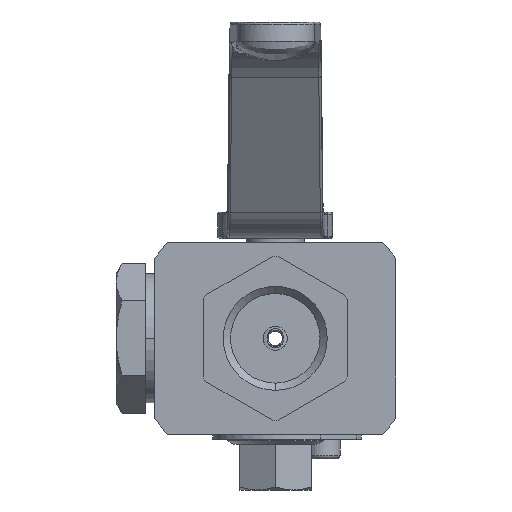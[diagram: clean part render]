
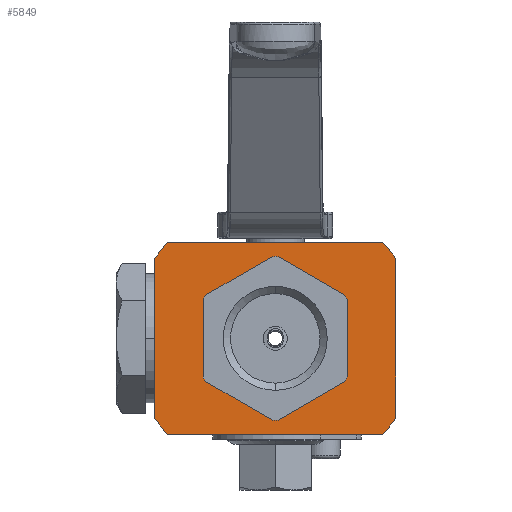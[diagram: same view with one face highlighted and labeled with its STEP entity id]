
A CAD part, left-side view. The second image highlights one B-rep face of the part: STEP entity #5849.
In plain terms, the highlighted planar face has unit normal (-1, 0, 0).
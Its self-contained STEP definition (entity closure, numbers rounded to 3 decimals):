
#1047=DIRECTION('',(0.,0.,-1.));
#1048=VECTOR('',#1047,33.166);
#1049=CARTESIAN_POINT('',(-21.,-25.,16.583));
#1050=LINE('',#1049,#1048);
#1063=CARTESIAN_POINT('',(-21.,0.,0.));
#1064=DIRECTION('',(1.,0.,0.));
#1065=DIRECTION('',(0.,-0.849,0.529));
#1066=AXIS2_PLACEMENT_3D('',#1063,#1064,#1065);
#1068=DIRECTION('',(0.,-0.866,-0.5));
#1069=VECTOR('',#1068,16.);
#1070=CARTESIAN_POINT('',(-21.,-0.572,16.99));
#1071=LINE('',#1070,#1069);
#1072=DIRECTION('',(0.,-0.866,0.5));
#1073=VECTOR('',#1072,16.);
#1074=CARTESIAN_POINT('',(-21.,14.428,8.99));
#1075=LINE('',#1074,#1073);
#1076=CARTESIAN_POINT('',(-21.,0.,0.));
#1077=DIRECTION('',(-1.,0.,0.));
#1078=DIRECTION('',(0.,0.849,0.529));
#1079=AXIS2_PLACEMENT_3D('',#1076,#1077,#1078);
#1081=DIRECTION('',(0.,0.,1.));
#1082=VECTOR('',#1081,16.);
#1083=CARTESIAN_POINT('',(-21.,15.,-8.));
#1084=LINE('',#1083,#1082);
#1085=CARTESIAN_POINT('',(-21.,0.,0.));
#1086=DIRECTION('',(-1.,0.,0.));
#1087=DIRECTION('',(0.,0.882,-0.471));
#1088=AXIS2_PLACEMENT_3D('',#1085,#1086,#1087);
#1090=DIRECTION('',(0.,0.866,0.5));
#1091=VECTOR('',#1090,16.);
#1092=CARTESIAN_POINT('',(-21.,0.572,-16.99));
#1093=LINE('',#1092,#1091);
#1094=DIRECTION('',(0.,0.866,-0.5));
#1095=VECTOR('',#1094,16.);
#1096=CARTESIAN_POINT('',(-21.,-14.428,-8.99));
#1097=LINE('',#1096,#1095);
#1098=CARTESIAN_POINT('',(-21.,0.,0.));
#1099=DIRECTION('',(1.,0.,0.));
#1100=DIRECTION('',(0.,-0.882,-0.471));
#1101=AXIS2_PLACEMENT_3D('',#1098,#1099,#1100);
#1103=DIRECTION('',(0.,0.,-1.));
#1104=VECTOR('',#1103,16.);
#1105=CARTESIAN_POINT('',(-21.,-15.,8.));
#1106=LINE('',#1105,#1104);
#1107=DIRECTION('',(0.,1.,0.));
#1108=VECTOR('',#1107,44.721);
#1109=CARTESIAN_POINT('',(-21.,-22.361,-20.));
#1110=LINE('',#1109,#1108);
#1151=CARTESIAN_POINT('',(-21.,0.,0.));
#1152=DIRECTION('',(1.,0.,0.));
#1153=DIRECTION('',(0.,-0.833,-0.553));
#1154=AXIS2_PLACEMENT_3D('',#1151,#1152,#1153);
#1161=CARTESIAN_POINT('',(-21.,0.,0.));
#1162=DIRECTION('',(1.,0.,0.));
#1163=DIRECTION('',(0.,0.745,-0.667));
#1164=AXIS2_PLACEMENT_3D('',#1161,#1162,#1163);
#1171=DIRECTION('',(0.,0.,1.));
#1172=VECTOR('',#1171,33.166);
#1173=CARTESIAN_POINT('',(-21.,25.,-16.583));
#1174=LINE('',#1173,#1172);
#1197=CARTESIAN_POINT('',(-21.,0.,0.));
#1198=DIRECTION('',(1.,0.,0.));
#1199=DIRECTION('',(0.,0.833,0.553));
#1200=AXIS2_PLACEMENT_3D('',#1197,#1198,#1199);
#1207=DIRECTION('',(0.,-1.,0.));
#1208=VECTOR('',#1207,44.721);
#1209=CARTESIAN_POINT('',(-21.,22.361,20.));
#1210=LINE('',#1209,#1208);
#1253=CARTESIAN_POINT('',(-21.,0.,0.));
#1254=DIRECTION('',(1.,0.,0.));
#1255=DIRECTION('',(0.,-0.745,0.667));
#1256=AXIS2_PLACEMENT_3D('',#1253,#1254,#1255);
#3305=CARTESIAN_POINT('',(-21.,0.,0.));
#3306=DIRECTION('',(1.,0.,0.));
#3307=DIRECTION('',(0.,-0.034,-0.999));
#3308=AXIS2_PLACEMENT_3D('',#3305,#3306,#3307);
#3348=CARTESIAN_POINT('',(-21.,0.,0.));
#3349=DIRECTION('',(1.,0.,0.));
#3350=DIRECTION('',(0.,0.034,0.999));
#3351=AXIS2_PLACEMENT_3D('',#3348,#3349,#3350);
#4753=CARTESIAN_POINT('',(-21.,-22.361,-20.));
#4754=CARTESIAN_POINT('',(-21.,22.361,-20.));
#4755=VERTEX_POINT('',#4753);
#4756=VERTEX_POINT('',#4754);
#4757=CARTESIAN_POINT('',(-21.,22.361,20.));
#4758=CARTESIAN_POINT('',(-21.,-22.361,20.));
#4759=VERTEX_POINT('',#4757);
#4760=VERTEX_POINT('',#4758);
#4761=CARTESIAN_POINT('',(-21.,-14.428,-8.99));
#4763=VERTEX_POINT('',#4761);
#4765=CARTESIAN_POINT('',(-21.,-0.572,-16.99));
#4767=VERTEX_POINT('',#4765);
#4769=CARTESIAN_POINT('',(-21.,-15.,8.));
#4771=VERTEX_POINT('',#4769);
#4773=CARTESIAN_POINT('',(-21.,-15.,-8.));
#4775=VERTEX_POINT('',#4773);
#4777=CARTESIAN_POINT('',(-21.,-0.572,16.99));
#4779=VERTEX_POINT('',#4777);
#4781=CARTESIAN_POINT('',(-21.,-14.428,8.99));
#4783=VERTEX_POINT('',#4781);
#4785=CARTESIAN_POINT('',(-21.,14.428,8.99));
#4787=VERTEX_POINT('',#4785);
#4789=CARTESIAN_POINT('',(-21.,0.572,16.99));
#4791=VERTEX_POINT('',#4789);
#4793=CARTESIAN_POINT('',(-21.,15.,-8.));
#4795=VERTEX_POINT('',#4793);
#4797=CARTESIAN_POINT('',(-21.,15.,8.));
#4799=VERTEX_POINT('',#4797);
#4801=CARTESIAN_POINT('',(-21.,0.572,-16.99));
#4803=VERTEX_POINT('',#4801);
#4805=CARTESIAN_POINT('',(-21.,14.428,-8.99));
#4807=VERTEX_POINT('',#4805);
#4809=CARTESIAN_POINT('',(-21.,-25.,16.583));
#4810=CARTESIAN_POINT('',(-21.,-25.,-16.583));
#4811=VERTEX_POINT('',#4809);
#4812=VERTEX_POINT('',#4810);
#4813=CARTESIAN_POINT('',(-21.,25.,-16.583));
#4814=CARTESIAN_POINT('',(-21.,25.,16.583));
#4815=VERTEX_POINT('',#4813);
#4816=VERTEX_POINT('',#4814);
#5801=CARTESIAN_POINT('',(-21.,0.,0.));
#5802=DIRECTION('',(1.,0.,0.));
#5803=DIRECTION('',(0.,0.,-1.));
#5804=AXIS2_PLACEMENT_3D('',#5801,#5802,#5803);
#5805=PLANE('',#5804);
#5807=ORIENTED_EDGE('',*,*,#5806,.T.);
#5809=ORIENTED_EDGE('',*,*,#5808,.T.);
#5811=ORIENTED_EDGE('',*,*,#5810,.T.);
#5813=ORIENTED_EDGE('',*,*,#5812,.T.);
#5815=ORIENTED_EDGE('',*,*,#5814,.T.);
#5817=ORIENTED_EDGE('',*,*,#5816,.T.);
#5818=ORIENTED_EDGE('',*,*,#5791,.T.);
#5820=ORIENTED_EDGE('',*,*,#5819,.T.);
#5821=EDGE_LOOP('',(#5807,#5809,#5811,#5813,#5815,#5817,#5818,#5820));
#5822=FACE_OUTER_BOUND('',#5821,.F.);
#5824=ORIENTED_EDGE('',*,*,#5823,.F.);
#5826=ORIENTED_EDGE('',*,*,#5825,.F.);
#5828=ORIENTED_EDGE('',*,*,#5827,.F.);
#5830=ORIENTED_EDGE('',*,*,#5829,.F.);
#5832=ORIENTED_EDGE('',*,*,#5831,.T.);
#5834=ORIENTED_EDGE('',*,*,#5833,.F.);
#5836=ORIENTED_EDGE('',*,*,#5835,.T.);
#5838=ORIENTED_EDGE('',*,*,#5837,.F.);
#5840=ORIENTED_EDGE('',*,*,#5839,.F.);
#5842=ORIENTED_EDGE('',*,*,#5841,.F.);
#5844=ORIENTED_EDGE('',*,*,#5843,.F.);
#5846=ORIENTED_EDGE('',*,*,#5845,.F.);
#5847=EDGE_LOOP('',(#5824,#5826,#5828,#5830,#5832,#5834,#5836,#5838,#5840,#5842,
#5844,#5846));
#5848=FACE_BOUND('',#5847,.F.);
#1067=CIRCLE('',#1066,17.);
#1080=CIRCLE('',#1079,17.);
#1089=CIRCLE('',#1088,17.);
#1102=CIRCLE('',#1101,17.);
#1155=CIRCLE('',#1154,30.);
#1165=CIRCLE('',#1164,30.);
#1201=CIRCLE('',#1200,30.);
#1257=CIRCLE('',#1256,30.);
#3309=CIRCLE('',#3308,17.);
#3352=CIRCLE('',#3351,17.);
#5791=EDGE_CURVE('',#4811,#4812,#1050,.T.);
#5806=EDGE_CURVE('',#4755,#4756,#1110,.T.);
#5808=EDGE_CURVE('',#4756,#4815,#1165,.T.);
#5810=EDGE_CURVE('',#4815,#4816,#1174,.T.);
#5812=EDGE_CURVE('',#4816,#4759,#1201,.T.);
#5814=EDGE_CURVE('',#4759,#4760,#1210,.T.);
#5816=EDGE_CURVE('',#4760,#4811,#1257,.T.);
#5819=EDGE_CURVE('',#4812,#4755,#1155,.T.);
#5823=EDGE_CURVE('',#4783,#4771,#1067,.T.);
#5825=EDGE_CURVE('',#4779,#4783,#1071,.T.);
#5827=EDGE_CURVE('',#4791,#4779,#3352,.T.);
#5829=EDGE_CURVE('',#4787,#4791,#1075,.T.);
#5831=EDGE_CURVE('',#4787,#4799,#1080,.T.);
#5833=EDGE_CURVE('',#4795,#4799,#1084,.T.);
#5835=EDGE_CURVE('',#4795,#4807,#1089,.T.);
#5837=EDGE_CURVE('',#4803,#4807,#1093,.T.);
#5839=EDGE_CURVE('',#4767,#4803,#3309,.T.);
#5841=EDGE_CURVE('',#4763,#4767,#1097,.T.);
#5843=EDGE_CURVE('',#4775,#4763,#1102,.T.);
#5845=EDGE_CURVE('',#4771,#4775,#1106,.T.);
#5849=ADVANCED_FACE('',(#5822,#5848),#5805,.F.);
